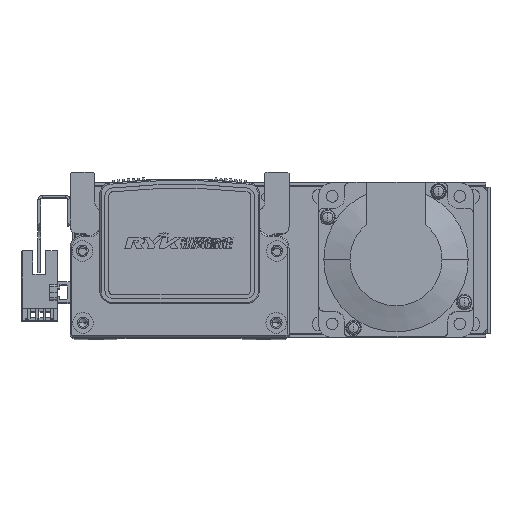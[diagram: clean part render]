
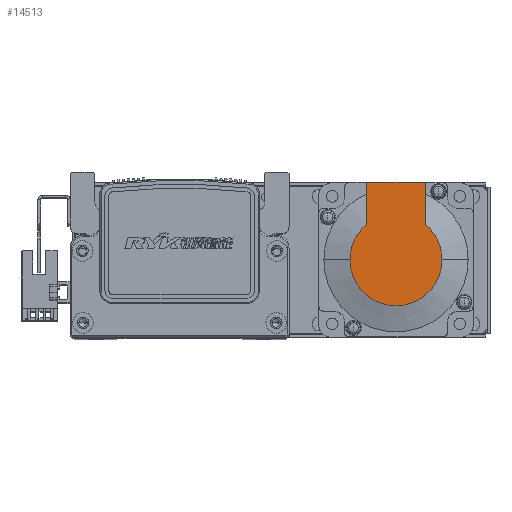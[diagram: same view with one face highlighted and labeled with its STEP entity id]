
A CAD part, top view. The second image highlights one B-rep face of the part: STEP entity #14513.
In plain terms, the highlighted planar face has unit normal (0, 0, 1) as drawn and (-1, 0, 0) by its records, which use the part's own axes.
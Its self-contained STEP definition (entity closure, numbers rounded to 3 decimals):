
#7290 = FACE_OUTER_BOUND ( 'NONE', #23904, .T. ) ;
#14513 = ADVANCED_FACE ( 'NONE', ( #7290 ), #38385, .T. ) ;
#15690 = AXIS2_PLACEMENT_3D ( 'NONE', #38360, #38393, #38397 ) ;
#21103 = DIRECTION ( 'NONE',  ( 0., 0., -1. ) ) ;
#21106 = CARTESIAN_POINT ( 'NONE',  ( -99., 0., 0. ) ) ;
#21115 = DIRECTION ( 'NONE',  ( -1., 0., 0. ) ) ;
#21119 = CARTESIAN_POINT ( 'NONE',  ( -99., 0., 0. ) ) ;
#21123 = DIRECTION ( 'NONE',  ( -1., 0., 0. ) ) ;
#21151 = DIRECTION ( 'NONE',  ( 0., 0., -1. ) ) ;
#23904 = EDGE_LOOP ( 'NONE', ( #29436, #29439, #29340, #29419, #29447, #29444 ) ) ;
#24025 = VERTEX_POINT ( 'NONE', #56997 ) ;
#24034 = VERTEX_POINT ( 'NONE', #57021 ) ;
#24052 = VERTEX_POINT ( 'NONE', #57014 ) ;
#25407 = AXIS2_PLACEMENT_3D ( 'NONE', #21106, #21115, #21103 ) ;
#25448 = AXIS2_PLACEMENT_3D ( 'NONE', #21119, #21123, #21151 ) ;
#25487 = AXIS2_PLACEMENT_3D ( 'NONE', #27981, #28002, #27971 ) ;
#26725 = CIRCLE ( 'NONE', #25407, 17.881 ) ;
#26750 = CIRCLE ( 'NONE', #25448, 17.881 ) ;
#27250 = CIRCLE ( 'NONE', #25487, 17.881 ) ;
#27275 = VECTOR ( 'NONE', #28016, 1000. ) ;
#27288 = LINE ( 'NONE', #28015, #27275 ) ;
#27971 = DIRECTION ( 'NONE',  ( 0., 0., -1. ) ) ;
#27981 = CARTESIAN_POINT ( 'NONE',  ( -99., 0., 0. ) ) ;
#28002 = DIRECTION ( 'NONE',  ( -1., 0., 0. ) ) ;
#28015 = CARTESIAN_POINT ( 'NONE',  ( -99., 30., 25. ) ) ;
#28016 = DIRECTION ( 'NONE',  ( 0., 0., 1. ) ) ;
#29340 = ORIENTED_EDGE ( 'NONE', *, *, #39833, .T. ) ;
#29419 = ORIENTED_EDGE ( 'NONE', *, *, #39854, .T. ) ;
#29436 = ORIENTED_EDGE ( 'NONE', *, *, #33759, .T. ) ;
#29439 = ORIENTED_EDGE ( 'NONE', *, *, #40458, .T. ) ;
#29444 = ORIENTED_EDGE ( 'NONE', *, *, #40499, .F. ) ;
#29447 = ORIENTED_EDGE ( 'NONE', *, *, #33755, .F. ) ;
#33755 = EDGE_CURVE ( 'NONE', #24025, #62764, #61474, .T. ) ;
#33759 = EDGE_CURVE ( 'NONE', #24034, #24052, #61495, .T. ) ;
#38360 = CARTESIAN_POINT ( 'NONE',  ( -99., -8.941, 0. ) ) ;
#38385 = PLANE ( 'NONE',  #15690 ) ;
#38393 = DIRECTION ( 'NONE',  ( -1., 0., 0. ) ) ;
#38397 = DIRECTION ( 'NONE',  ( 0., 0., 1. ) ) ;
#39833 = EDGE_CURVE ( 'NONE', #62800, #62670, #26725, .T. ) ;
#39854 = EDGE_CURVE ( 'NONE', #62670, #62764, #26750, .T. ) ;
#40458 = EDGE_CURVE ( 'NONE', #24052, #62800, #27250, .T. ) ;
#40499 = EDGE_CURVE ( 'NONE', #24034, #24025, #27288, .T. ) ;
#47290 = CARTESIAN_POINT ( 'NONE',  ( -99., 0., 17.881 ) ) ;
#47383 = CARTESIAN_POINT ( 'NONE',  ( -99., 13.735, 11.45 ) ) ;
#47396 = CARTESIAN_POINT ( 'NONE',  ( -99., 0., -17.881 ) ) ;
#54061 = CARTESIAN_POINT ( 'NONE',  ( -99., 0., 11.45 ) ) ;
#54074 = CARTESIAN_POINT ( 'NONE',  ( -99., -8.941, -11.45 ) ) ;
#54106 = DIRECTION ( 'NONE',  ( 0., -1., 0. ) ) ;
#54114 = DIRECTION ( 'NONE',  ( 0., -1., 0. ) ) ;
#56997 = CARTESIAN_POINT ( 'NONE',  ( -99., 30., 11.45 ) ) ;
#57014 = CARTESIAN_POINT ( 'NONE',  ( -99., 13.735, -11.45 ) ) ;
#57021 = CARTESIAN_POINT ( 'NONE',  ( -99., 30., -11.45 ) ) ;
#61474 = LINE ( 'NONE', #54061, #61520 ) ;
#61495 = LINE ( 'NONE', #54074, #61499 ) ;
#61499 = VECTOR ( 'NONE', #54106, 1000. ) ;
#61520 = VECTOR ( 'NONE', #54114, 1000. ) ;
#62670 = VERTEX_POINT ( 'NONE', #47290 ) ;
#62764 = VERTEX_POINT ( 'NONE', #47383 ) ;
#62800 = VERTEX_POINT ( 'NONE', #47396 ) ;
